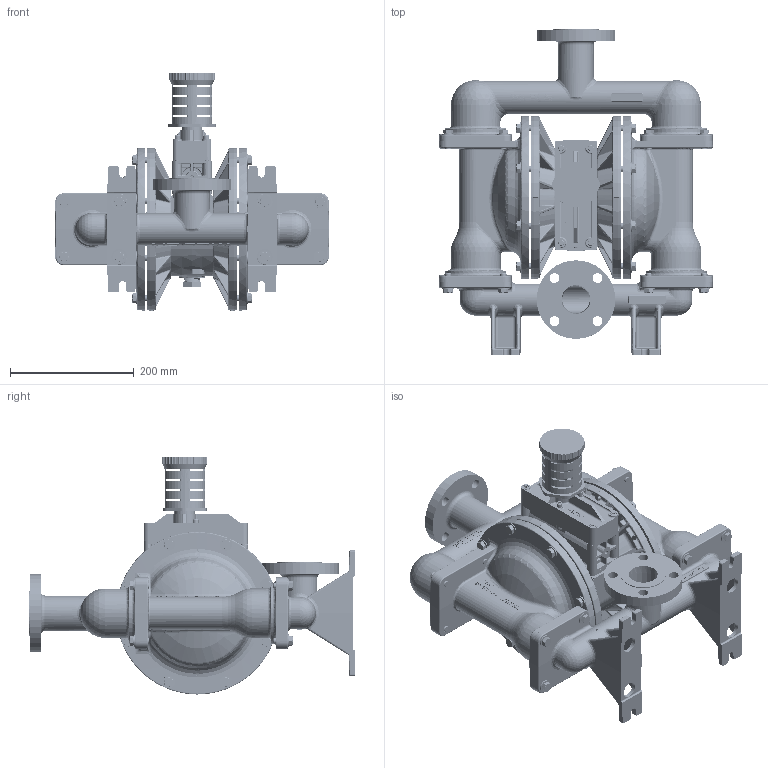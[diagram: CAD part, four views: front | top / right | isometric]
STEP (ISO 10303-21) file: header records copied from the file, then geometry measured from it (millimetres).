
FILE_DESCRIPTION((''),'2;1');
FILE_NAME('P430_SS_TOP_SW0001','2017-08-15T',('10013162'),(''),'PRO/ENGINEER BY PARAMETRIC TECHNOLOGY CORPORATION, 2015360','PRO/ENGINEER BY PARAMETRIC TECHNOLOGY CORPORATION, 2015360','');
FILE_SCHEMA(('CONFIG_CONTROL_DESIGN'));
Products named in the file (1): P430_SS_TOP_SW0001
Bounding box: 443.47 x 526.03 x 384.43 mm (x, y, z)
Volume: 6217094.3 mm3; surface area: 1651752.7 mm2
Topology: 1 solids, 1 shells, 11493 faces, 29302 edges, 17961 vertices
Faces by surface type: plane 5268, bspline 2281, cylinder 1698, torus 903, cone 856, sphere 417, extrusion 70
Entity records: 651175 total; most frequent: CARTESIAN_POINT 393306, ORIENTED_EDGE 58188, DIRECTION 47514, EDGE_CURVE 29094, VERTEX_POINT 17961, AXIS2_PLACEMENT_3D 16486, VECTOR 14542, LINE 14472
